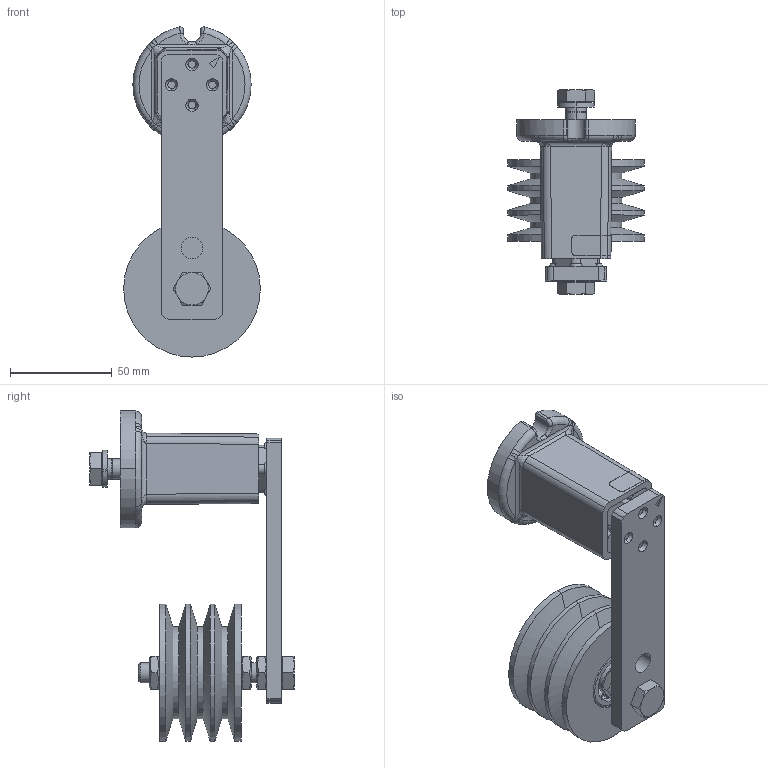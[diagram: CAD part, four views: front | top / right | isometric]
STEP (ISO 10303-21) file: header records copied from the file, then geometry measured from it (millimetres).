
FILE_DESCRIPTION((''),'2;1');
FILE_NAME('\\rostaofc\data\uw\save\daten_f\Normprogramm 3D\Spannelemente\KSE18-SPZ3_06201003.stp','2004-09-28T11:17:53',('uw'),(''),'Autodesk Inventor 8','Autodesk Inventor 8','');
FILE_SCHEMA(('AUTOMOTIVE_DESIGN { 1 0 10303 214 1 1 1 1 }'));
Length unit declared in the file: millimetre
Products named in the file (17): ROSTA-Spannelement KSE 18 SPZ 63-3; ROSTA-Spannelement SE-R18; Gehäuse SE18; Innenteil zu SE-R18; Hebel zu SE18 (m. 2- Loch); 4_10_7386-001; 06408424-002; SK3234-004; 3_10_7387-001; Sechskantschraube - M10 x 30; Federring - A 10; Keilriemenscheibe SPZ 63-1 komplett; Keilriemenscheibe SPZ 63-3 bearbeitet; Kugellager 6200-Z2; Distanzbüchse zu Keilriemenscheibe SPZ 63-3; Sechskantschraube - M10 x 70; Sechskantmutter - M10
Assembly tree (22 placements, depth 4):
  ROSTA-Spannelement KSE 18 SPZ 63-3
    ROSTA-Spannelement SE-R18
      Gehäuse SE18
      Innenteil zu SE-R18
        Hebel zu SE18 (m. 2- Loch)
        4_10_7386-001
      06408424-002
      SK3234-004
      3_10_7387-001  x4
      Sechskantschraube - M10 x 30
      Federring - A 10
    Keilriemenscheibe SPZ 63-1 komplett
      Keilriemenscheibe SPZ 63-3 bearbeitet
      Kugellager 6200-Z2  x2
      Distanzbüchse zu Keilriemenscheibe SPZ 63-3
    Sechskantschraube - M10 x 70
    Sechskantmutter - M10  x3
Bounding box: 67 x 100.3 x 161.89 mm (x, y, z)
Volume: 204366 mm3; surface area: 87938 mm2
Topology: 32 solids, 32 shells, 510 faces, 1277 edges, 696 vertices
Faces by surface type: cylinder 144, plane 140, bspline 102, cone 60, sphere 40, torus 24
Entity records: 13173 total; most frequent: CARTESIAN_POINT 3934, DIRECTION 2041, ORIENTED_EDGE 1790, EDGE_CURVE 895, AXIS2_PLACEMENT_3D 861, VERTEX_POINT 528, CIRCLE 470, EDGE_LOOP 414
